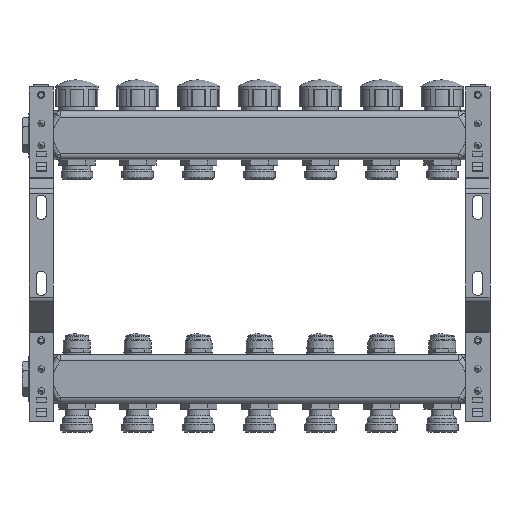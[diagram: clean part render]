
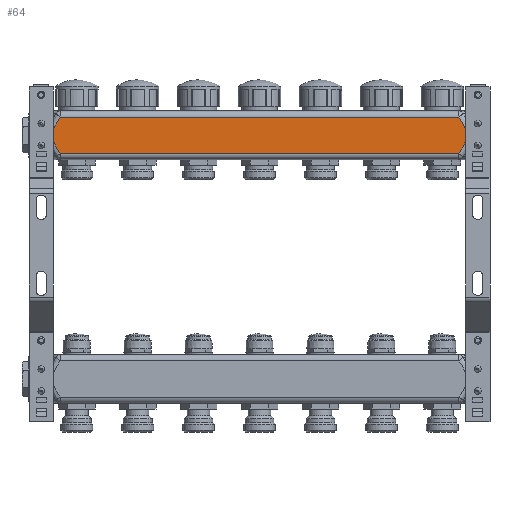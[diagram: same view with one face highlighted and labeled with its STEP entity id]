
A CAD part, front view. The second image highlights one B-rep face of the part: STEP entity #64.
In plain terms, the highlighted planar face has unit normal (0, -1, 0).
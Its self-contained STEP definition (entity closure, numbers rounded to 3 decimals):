
#64=ADVANCED_FACE('',(#1535),#1537,.T.);
#1535=FACE_BOUND('',#1536,.T.);
#1536=EDGE_LOOP('',(#12641,#12642,#12643,#12644,#12645,#12646,#12647,#12648));
#1537=PLANE('',#1538);
#1538=AXIS2_PLACEMENT_3D('',#1539,#1540,#1541);
#1539=CARTESIAN_POINT('',(1.7,19.6,-19.65));
#1540=DIRECTION('',(0.,-1.,0.));
#1541=DIRECTION('',(0.,0.,-1.));
#12641=ORIENTED_EDGE('',*,*,#18486,.F.);
#12642=ORIENTED_EDGE('',*,*,#18485,.T.);
#12643=ORIENTED_EDGE('',*,*,#18487,.T.);
#12644=ORIENTED_EDGE('',*,*,#18488,.T.);
#12645=ORIENTED_EDGE('',*,*,#18489,.T.);
#12646=ORIENTED_EDGE('',*,*,#18490,.T.);
#12647=ORIENTED_EDGE('',*,*,#18491,.F.);
#12648=ORIENTED_EDGE('',*,*,#18480,.T.);
#18480=EDGE_CURVE('',#21522,#21519,#21523,.T.);
#18485=EDGE_CURVE('',#21520,#21528,#21530,.T.);
#18486=EDGE_CURVE('',#21520,#21519,#21531,.T.);
#18487=EDGE_CURVE('',#21528,#21532,#21533,.T.);
#18488=EDGE_CURVE('',#21532,#21534,#21535,.T.);
#18489=EDGE_CURVE('',#21534,#21536,#21537,.F.);
#18490=EDGE_CURVE('',#21536,#21538,#21539,.T.);
#18491=EDGE_CURVE('',#21522,#21538,#21540,.T.);
#21519=VERTEX_POINT('',#28639);
#21520=VERTEX_POINT('',#28640);
#21522=VERTEX_POINT('',#28655);
#21523=B_SPLINE_CURVE_WITH_KNOTS('',3,
(#28656,#28657,#28658,#28659,#28660,#28661,#28662,#28663,#28664,#28665,#28666,#28667),
.UNSPECIFIED.,.F.,.F.,
(4,1,1,1,1,1,1,1,1,4),
(0.,0.148,0.281,0.388,0.488,0.582,
0.677,0.788,0.894,1.),
.UNSPECIFIED.);
#21528=VERTEX_POINT('',#28724);
#21530=B_SPLINE_CURVE_WITH_KNOTS('',3,
(#28729,#28730,#28731,#28732,#28733,#28734,#28735,#28736,#28737,#28738,#28739,#28740),
.UNSPECIFIED.,.F.,.F.,
(4,1,1,1,1,1,1,1,1,4),
(0.,0.148,0.285,0.404,0.507,0.612,
0.722,0.854,0.945,1.),
.UNSPECIFIED.);
#21531=LINE('',#28741,#28742);
#21532=VERTEX_POINT('',#28744);
#21533=LINE('',#28745,#28746);
#21534=VERTEX_POINT('',#28748);
#21535=B_SPLINE_CURVE_WITH_KNOTS('',3,
(#28749,#28750,#28751,#28752,#28753,#28754,#28755,#28756,#28757,#28758,#28759,#28760),
.UNSPECIFIED.,.F.,.F.,
(4,1,1,1,1,1,1,1,1,4),
(0.,0.148,0.281,0.388,0.488,0.582,
0.677,0.788,0.894,1.),
.UNSPECIFIED.);
#21536=VERTEX_POINT('',#28761);
#21537=LINE('',#28762,#28763);
#21538=VERTEX_POINT('',#28765);
#21539=B_SPLINE_CURVE_WITH_KNOTS('',3,
(#28766,#28767,#28768,#28769,#28770,#28771,#28772,#28773,#28774,#28775,#28776,#28777),
.UNSPECIFIED.,.F.,.F.,
(4,1,1,1,1,1,1,1,1,4),
(0.,0.148,0.285,0.404,0.507,0.612,
0.722,0.854,0.945,1.),
.UNSPECIFIED.);
#21540=LINE('',#28778,#28779);
#28639=CARTESIAN_POINT('',(20.,19.6,-35.442));
#28640=CARTESIAN_POINT('',(20.,19.6,-43.858));
#28655=CARTESIAN_POINT('',(25.634,19.6,-24.65));
#28656=CARTESIAN_POINT('',(25.634,19.6,-24.65));
#28657=CARTESIAN_POINT('',(25.276,19.6,-25.157));
#28658=CARTESIAN_POINT('',(24.609,19.6,-26.124));
#28659=CARTESIAN_POINT('',(23.733,19.6,-27.474));
#28660=CARTESIAN_POINT('',(23.003,19.6,-28.67));
#28661=CARTESIAN_POINT('',(22.391,19.6,-29.742));
#28662=CARTESIAN_POINT('',(21.837,19.6,-30.785));
#28663=CARTESIAN_POINT('',(21.305,19.6,-31.879));
#28664=CARTESIAN_POINT('',(20.804,19.6,-33.032));
#28665=CARTESIAN_POINT('',(20.354,19.6,-34.238));
#28666=CARTESIAN_POINT('',(20.109,19.6,-35.041));
#28667=CARTESIAN_POINT('',(20.,19.6,-35.442));
#28724=CARTESIAN_POINT('',(25.634,19.6,-54.65));
#28729=CARTESIAN_POINT('',(20.,19.6,-43.858));
#28730=CARTESIAN_POINT('',(20.152,19.6,-44.421));
#28731=CARTESIAN_POINT('',(20.497,19.6,-45.494));
#28732=CARTESIAN_POINT('',(21.107,19.6,-46.995));
#28733=CARTESIAN_POINT('',(21.728,19.6,-48.305));
#28734=CARTESIAN_POINT('',(22.35,19.6,-49.486));
#28735=CARTESIAN_POINT('',(22.997,19.6,-50.62));
#28736=CARTESIAN_POINT('',(23.744,19.6,-51.844));
#28737=CARTESIAN_POINT('',(24.497,19.6,-53.003));
#28738=CARTESIAN_POINT('',(25.15,19.6,-53.961));
#28739=CARTESIAN_POINT('',(25.501,19.6,-54.462));
#28740=CARTESIAN_POINT('',(25.634,19.6,-54.65));
#28741=CARTESIAN_POINT('',(20.,19.6,-43.858));
#28742=VECTOR('',#28743,1.);
#28743=DIRECTION('',(0.,0.,1.));
#28744=CARTESIAN_POINT('',(352.766,19.6,-54.65));
#28745=CARTESIAN_POINT('',(25.634,19.6,-54.65));
#28746=VECTOR('',#28747,1.);
#28747=DIRECTION('',(1.,0.,0.));
#28748=CARTESIAN_POINT('',(358.4,19.6,-43.858));
#28749=CARTESIAN_POINT('',(352.766,19.6,-54.65));
#28750=CARTESIAN_POINT('',(353.124,19.6,-54.143));
#28751=CARTESIAN_POINT('',(353.791,19.6,-53.176));
#28752=CARTESIAN_POINT('',(354.667,19.6,-51.826));
#28753=CARTESIAN_POINT('',(355.397,19.6,-50.63));
#28754=CARTESIAN_POINT('',(356.009,19.6,-49.558));
#28755=CARTESIAN_POINT('',(356.563,19.6,-48.515));
#28756=CARTESIAN_POINT('',(357.095,19.6,-47.421));
#28757=CARTESIAN_POINT('',(357.596,19.6,-46.268));
#28758=CARTESIAN_POINT('',(358.046,19.6,-45.062));
#28759=CARTESIAN_POINT('',(358.291,19.6,-44.259));
#28760=CARTESIAN_POINT('',(358.4,19.6,-43.858));
#28761=CARTESIAN_POINT('',(358.4,19.6,-35.442));
#28762=CARTESIAN_POINT('',(358.4,19.6,-35.442));
#28763=VECTOR('',#28764,1.);
#28764=DIRECTION('',(0.,0.,-1.));
#28765=CARTESIAN_POINT('',(352.766,19.6,-24.65));
#28766=CARTESIAN_POINT('',(358.4,19.6,-35.442));
#28767=CARTESIAN_POINT('',(358.248,19.6,-34.879));
#28768=CARTESIAN_POINT('',(357.903,19.6,-33.806));
#28769=CARTESIAN_POINT('',(357.293,19.6,-32.305));
#28770=CARTESIAN_POINT('',(356.672,19.6,-30.995));
#28771=CARTESIAN_POINT('',(356.05,19.6,-29.814));
#28772=CARTESIAN_POINT('',(355.403,19.6,-28.68));
#28773=CARTESIAN_POINT('',(354.656,19.6,-27.456));
#28774=CARTESIAN_POINT('',(353.903,19.6,-26.297));
#28775=CARTESIAN_POINT('',(353.25,19.6,-25.339));
#28776=CARTESIAN_POINT('',(352.899,19.6,-24.838));
#28777=CARTESIAN_POINT('',(352.766,19.6,-24.65));
#28778=CARTESIAN_POINT('',(25.634,19.6,-24.65));
#28779=VECTOR('',#28780,1.);
#28780=DIRECTION('',(1.,0.,0.));
